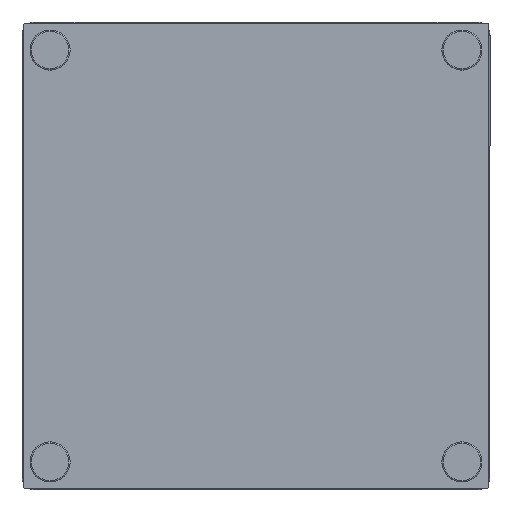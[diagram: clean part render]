
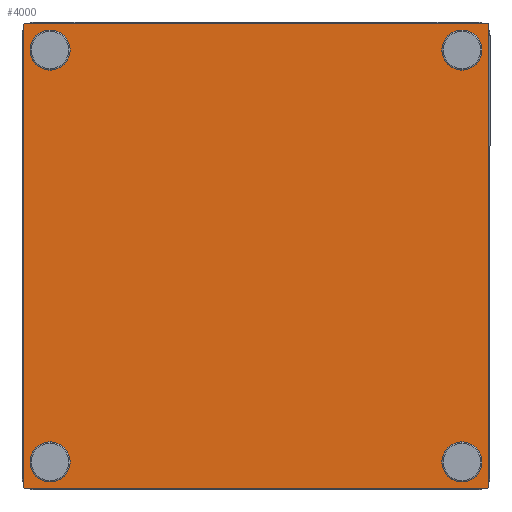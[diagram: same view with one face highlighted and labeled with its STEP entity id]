
A CAD part, front view. The second image highlights one B-rep face of the part: STEP entity #4000.
In plain terms, the highlighted planar face has unit normal (0, -1, 0).
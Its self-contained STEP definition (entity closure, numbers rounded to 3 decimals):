
#194 = LINE ( 'NONE', #1256, #4088 ) ;
#230 = EDGE_CURVE ( 'NONE', #3733, #3170, #194, .T. ) ;
#283 = PLANE ( 'NONE',  #2965 ) ;
#407 = CARTESIAN_POINT ( 'NONE',  ( -174., 0., -172.5 ) ) ;
#554 = CARTESIAN_POINT ( 'NONE',  ( 174., 0., 174. ) ) ;
#589 = ORIENTED_EDGE ( 'NONE', *, *, #2652, .T. ) ;
#863 = CIRCLE ( 'NONE', #3559, 1.5 ) ;
#970 = AXIS2_PLACEMENT_3D ( 'NONE', #3130, #2190, #2544 ) ;
#1031 = EDGE_CURVE ( 'NONE', #3420, #3196, #1225, .T. ) ;
#1119 = ORIENTED_EDGE ( 'NONE', *, *, #3312, .F. ) ;
#1191 = CIRCLE ( 'NONE', #1420, 1.5 ) ;
#1225 = LINE ( 'NONE', #3401, #2057 ) ;
#1256 = CARTESIAN_POINT ( 'NONE',  ( -174., 0., 174. ) ) ;
#1268 = DIRECTION ( 'NONE',  ( 0., 0., 1. ) ) ;
#1300 = CARTESIAN_POINT ( 'NONE',  ( -174., 0., 172.5 ) ) ;
#1396 = DIRECTION ( 'NONE',  ( 0., -1., 0. ) ) ;
#1420 = AXIS2_PLACEMENT_3D ( 'NONE', #1612, #3844, #3083 ) ;
#1494 = ORIENTED_EDGE ( 'NONE', *, *, #1031, .F. ) ;
#1612 = CARTESIAN_POINT ( 'NONE',  ( 172.5, 0., -172.5 ) ) ;
#1640 = EDGE_CURVE ( 'NONE', #3170, #4019, #4589, .T. ) ;
#1651 = DIRECTION ( 'NONE',  ( 0., 0., -1. ) ) ;
#1780 = CARTESIAN_POINT ( 'NONE',  ( -172.5, 0., -174. ) ) ;
#1937 = VECTOR ( 'NONE', #4657, 1000. ) ;
#2057 = VECTOR ( 'NONE', #1268, 1000. ) ;
#2135 = CARTESIAN_POINT ( 'NONE',  ( 174., 0., 174. ) ) ;
#2190 = DIRECTION ( 'NONE',  ( 0., -1., 0. ) ) ;
#2420 = FACE_OUTER_BOUND ( 'NONE', #4520, .T. ) ;
#2466 = EDGE_CURVE ( 'NONE', #3640, #4019, #1191, .T. ) ;
#2544 = DIRECTION ( 'NONE',  ( 0., 0., -1. ) ) ;
#2652 = EDGE_CURVE ( 'NONE', #3733, #3196, #4488, .T. ) ;
#2726 = DIRECTION ( 'NONE',  ( 1., 0., 0. ) ) ;
#2762 = CARTESIAN_POINT ( 'NONE',  ( 0., 0., 0. ) ) ;
#2773 = DIRECTION ( 'NONE',  ( 0., 0., -1. ) ) ;
#2797 = ORIENTED_EDGE ( 'NONE', *, *, #230, .F. ) ;
#2965 = AXIS2_PLACEMENT_3D ( 'NONE', #2762, #4225, #1651 ) ;
#3024 = ORIENTED_EDGE ( 'NONE', *, *, #1640, .F. ) ;
#3083 = DIRECTION ( 'NONE',  ( 0., 0., -1. ) ) ;
#3127 = CARTESIAN_POINT ( 'NONE',  ( 174., 0., -172.5 ) ) ;
#3130 = CARTESIAN_POINT ( 'NONE',  ( -172.5, 0., 172.5 ) ) ;
#3170 = VERTEX_POINT ( 'NONE', #2135 ) ;
#3196 = VERTEX_POINT ( 'NONE', #1300 ) ;
#3312 = EDGE_CURVE ( 'NONE', #3640, #3822, #4629, .T. ) ;
#3332 = EDGE_CURVE ( 'NONE', #3420, #3822, #863, .T. ) ;
#3401 = CARTESIAN_POINT ( 'NONE',  ( -174., 0., 174. ) ) ;
#3420 = VERTEX_POINT ( 'NONE', #407 ) ;
#3559 = AXIS2_PLACEMENT_3D ( 'NONE', #4678, #1396, #4328 ) ;
#3640 = VERTEX_POINT ( 'NONE', #4716 ) ;
#3733 = VERTEX_POINT ( 'NONE', #3944 ) ;
#3822 = VERTEX_POINT ( 'NONE', #1780 ) ;
#3844 = DIRECTION ( 'NONE',  ( 0., -1., 0. ) ) ;
#3944 = CARTESIAN_POINT ( 'NONE',  ( -172.5, 0., 174. ) ) ;
#4000 = ADVANCED_FACE ( 'NONE', ( #2420 ), #283, .T. ) ;
#4019 = VERTEX_POINT ( 'NONE', #3127 ) ;
#4082 = ORIENTED_EDGE ( 'NONE', *, *, #2466, .T. ) ;
#4088 = VECTOR ( 'NONE', #2726, 1000. ) ;
#4204 = VECTOR ( 'NONE', #2773, 1000. ) ;
#4225 = DIRECTION ( 'NONE',  ( 0., -1., 0. ) ) ;
#4302 = CARTESIAN_POINT ( 'NONE',  ( -174., 0., -174. ) ) ;
#4328 = DIRECTION ( 'NONE',  ( 0., 0., -1. ) ) ;
#4488 = CIRCLE ( 'NONE', #970, 1.5 ) ;
#4520 = EDGE_LOOP ( 'NONE', ( #2797, #589, #1494, #4713, #1119, #4082, #3024 ) ) ;
#4589 = LINE ( 'NONE', #554, #4204 ) ;
#4629 = LINE ( 'NONE', #4302, #1937 ) ;
#4657 = DIRECTION ( 'NONE',  ( -1., 0., 0. ) ) ;
#4678 = CARTESIAN_POINT ( 'NONE',  ( -172.5, 0., -172.5 ) ) ;
#4713 = ORIENTED_EDGE ( 'NONE', *, *, #3332, .T. ) ;
#4716 = CARTESIAN_POINT ( 'NONE',  ( 172.5, 0., -174. ) ) ;
